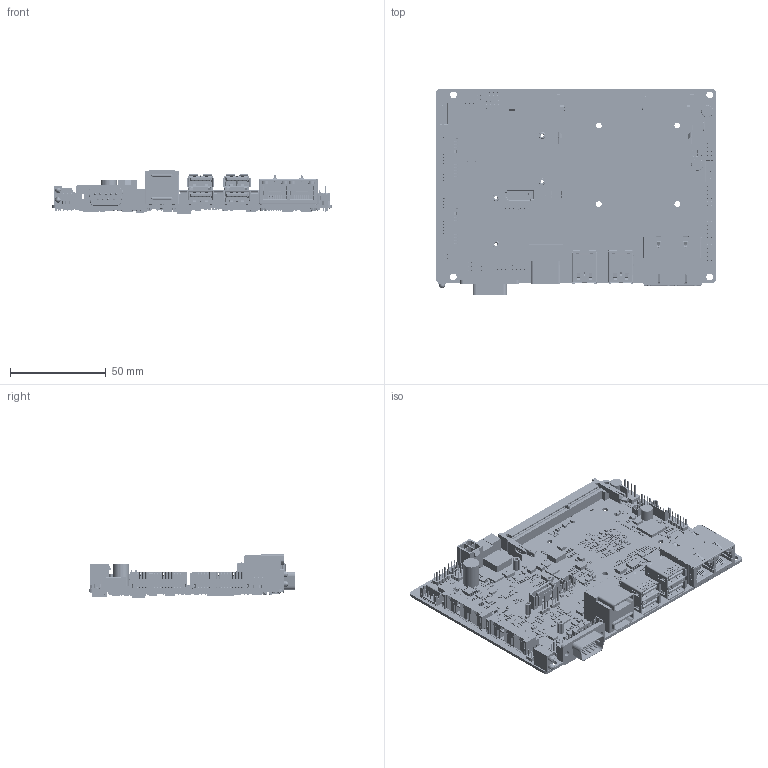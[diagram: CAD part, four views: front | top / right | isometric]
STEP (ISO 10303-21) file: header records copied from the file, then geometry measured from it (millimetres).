
FILE_DESCRIPTION((''),'2;1');
FILE_NAME('ECM-APL2_M_ASM','2018-10-02T13:13:38',('jamie_liao'),(''),'CREO PARAMETRIC BY PTC INC, 2017110','CREO PARAMETRIC BY PTC INC, 2017110','');
FILE_SCHEMA(('CONFIG_CONTROL_DESIGN','GEOMETRIC_VALIDATION_PROPERTIES_MIM'));
Products named in the file (102): ECM-APL2_M; E118X633760H; E14S4930601H; E14S4020400H; E1213008000H; E1662510201H; E16F1038031R; E14S3204300H; E14S3520900H; E1613620000R; E16D5I00301R; E1060708221H; E14S4021100H; E14S4852801H; E14S4751701H; E1653005202R; E1653004201R; E1660210201H; E1613320000R; E1613310000R; E1613520000R; E1304400003H; E1662210201H; E14S3122000H; E00A0900002; E1213009005H; E1655004006R; E1301581741H; E14S3233000H; E1113610720H; E1186610730H; E121220222EH; E1315090810H; E14S3506900H; E14S3351100H; E14S4048500H; E14S3820700H; E14S5C12500H; E14S3019800H; E1231302562H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
Assembly tree (1454 placements, depth 3):
  ECM-APL2_M_ASM
    ECM-APL2_M
    E118X633760H  x2
    E14S4930601H  x2
    E14S4020400H  x2
    E1213008000H  x8
    E1662510201H  x2
    E16F1038031R
    E14S3204300H
    E14S3520900H  x2
    E1613620000R  x2
    E16D5I00301R  x2
    E1060708221H  x6
    E14S4021100H  x2
    E14S4852801H
    E14S4751701H
    E1653005202R
    E1653004201R
    E1660210201H
    E1613320000R  x2
    E1613310000R  x3
    E1613520000R  x2
    E1304400003H
    E1662210201H  x2
    E14S3122000H
    E00A0900002
    E1213009005H  x16
    E1655004006R
    E1301581741H  x3
    E14S3233000H  x3
    E1113610720H  x3
    E1186610730H
    E121220222EH
    E1315090810H
    E14S3506900H
    E14S3351100H  x4
    E14S4048500H  x2
    E14S3820700H
    E14S5C12500H
    E14S3019800H
    E1231302562H  x2
    E0030000000  x6
    E0030100002  x3
    E0030100001  x24
    E0030100000  x11
    E1305063040H
    E1301055140R  x7
    E1213103004H  x6
    E1231332728H  x2
    E1213103000H  x3
    E1213106002H  x2
    E10187005CXH
    A-R1206  x4
    A-R0603  x43
    A-R0402  x505
    E1752511005H
    E1752500001H  x2
    E121220102GH  x2
    E1212201028H
    E1212206811H
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Bounding box: 146.05 x 108.1 x 22.66 mm (x, y, z)
Volume: 54176.2 mm3; surface area: 100053.2 mm2
Topology: 1543 solids, 1549 shells, 34132 faces, 90580 edges, 59282 vertices
Faces by surface type: plane 28431, cylinder 5034, cone 292, bspline 286, torus 51, sphere 24, extrusion 14
Entity records: 774236 total; most frequent: CARTESIAN_POINT 137094, ORIENTED_EDGE 122356, DIRECTION 115060, EDGE_CURVE 61178, VECTOR 49916, LINE 49906, VERTEX_POINT 40141, AXIS2_PLACEMENT_3D 32572
